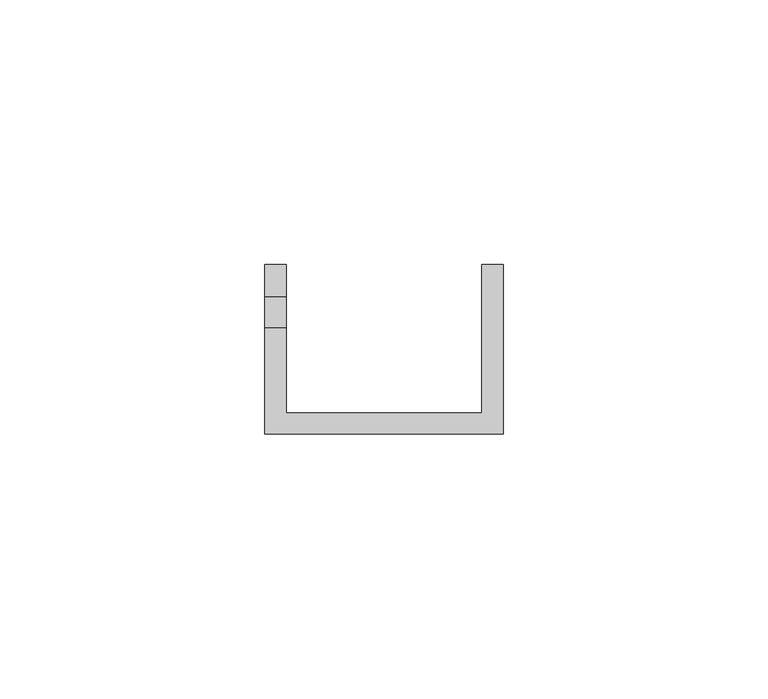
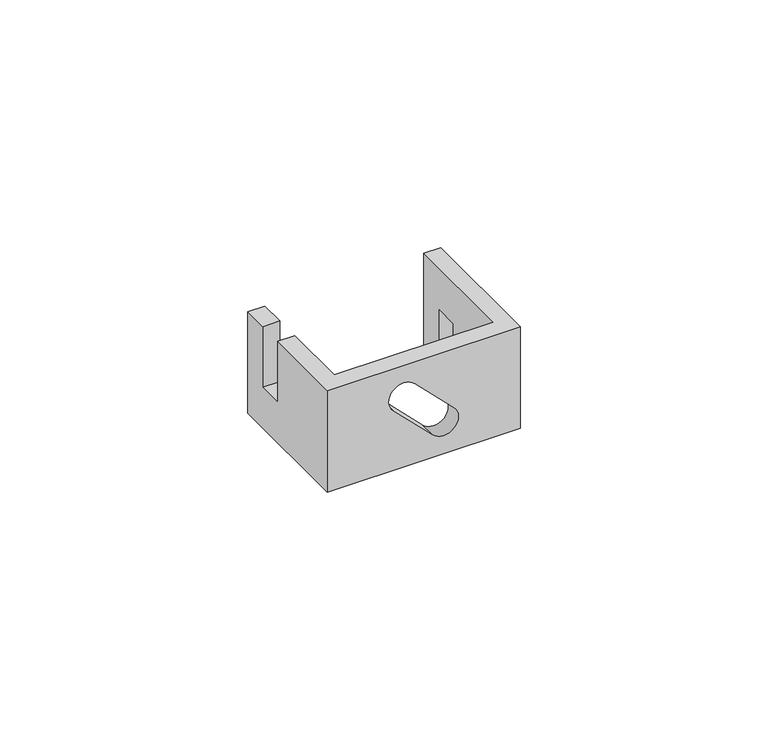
"""IFC4 building model written with IfcOpenShell, lengths in millimetres: proxy geometry, КНС_СкобаДержательПолосы_DKC : ND2311CU_Медь_45 мм."""

from ifc_helpers import new_model, si_unit, frame, origin, place, context, project, spatial, polyline, circle_curve, source, transform, mapped, element, save
from ifc_brep_helpers import plane_surface, revolved_surface, advanced_brep


def security_devices_24ac14d3(model_context):
    return source(origin(), model_context, "Body", "AdvancedBrep", [
        advanced_brep(
        [(-18.5, 32.0, 12.5), (-22.5, 32.0, 12.5), (-22.5, 26.0, 12.5), (-18.5, 26.0, 12.5), (-22.5, 0.0, 12.5), (22.5, 0.0, 12.5), (22.5, 32.0, 12.5), (18.5, 32.0, 12.5), (18.5, 4.0, 12.5), (-18.5, 4.0, 12.5), (-18.5, 20.0, 12.5), (-22.5, 20.0, 12.5), (-18.5, 32.0, -12.5), (-18.5, 4.0, -12.5), (18.5, 4.0, -12.5), (18.5, 20.0, -12.5), (22.5, 20.0, -12.5), (22.5, 0.0, -12.5), (-22.5, 0.0, -12.5), (-22.5, 32.0, -12.5), (18.5, 32.0, -12.5), (22.5, 32.0, -12.5), (22.5, 26.0, -12.5), (18.5, 26.0, -12.5), (-22.5, 20.0, -2.5), (-22.5, 26.0, -2.5), (-7.0710678, 0.0, 2.1213203), (-2.1213203, 0.0, 7.0710678), (7.0710678, 0.0, -2.1213203), (2.1213203, 0.0, -7.0710678), (22.5, 20.0, 2.5), (22.5, 26.0, 2.5), (18.5, 26.0, 2.5), (18.5, 20.0, 2.5), (-2.1213203, 4.0, 7.0710678), (-7.0710678, 4.0, 2.1213203), (2.1213203, 4.0, -7.0710678), (7.0710678, 4.0, -2.1213203), (-18.5, 26.0, -2.5), (-18.5, 20.0, -2.5)],
        [
            (0, 1),
            (1, 2),
            (2, 3),
            (3, 0),
            (4, 5),
            (5, 6),
            (6, 7),
            (7, 8),
            (8, 9),
            (9, 10),
            (10, 11),
            (11, 4),
            (12, 13),
            (13, 14),
            (14, 15),
            (15, 16),
            (16, 17),
            (17, 18),
            (18, 19),
            (19, 12),
            (20, 21),
            (21, 22),
            (22, 23),
            (23, 20),
            (0, 12),
            (19, 1),
            (18, 4),
            (11, 24),
            (24, 25),
            (25, 2),
            (17, 5),
            (26, 27, circle_curve(frame((-4.5961941, 0.0, 4.5961941), z_axis=(0.0, 1.0, 0.0), x_axis=(-1.0, 0.0, 0.0)), 3.5)),
            (27, 28),
            (28, 29, circle_curve(frame((4.5961941, 0.0, -4.5961941), z_axis=(0.0, 1.0, 0.0), x_axis=(-1.0, 0.0, 0.0)), 3.5)),
            (29, 26),
            (16, 30),
            (30, 31),
            (31, 22),
            (21, 6),
            (20, 7),
            (23, 32),
            (32, 33),
            (33, 15),
            (14, 8),
            (13, 9),
            (34, 35, circle_curve(frame((-4.5961941, 4.0, 4.5961941), z_axis=(0.0, -1.0, 0.0), x_axis=(-1.0, 0.0, 0.0)), 3.5)),
            (35, 36),
            (36, 37, circle_curve(frame((4.5961941, 4.0, -4.5961941), z_axis=(0.0, -1.0, 0.0), x_axis=(-1.0, 0.0, 0.0)), 3.5)),
            (37, 34),
            (3, 38),
            (38, 39),
            (39, 10),
            (38, 25),
            (24, 39),
            (30, 33),
            (32, 31),
            (34, 27),
            (26, 35),
            (37, 28),
            (36, 29),
        ],
        [
            plane_surface(frame((-22.5, 32.0, 12.5), z_axis=(0.0, 0.0, 1.0), x_axis=(-1.0, 0.0, 0.0))),
            plane_surface(frame((-22.5, 32.0, -12.5), z_axis=(0.0, 0.0, -1.0), x_axis=(1.0, 0.0, 0.0))),
            plane_surface(frame((-18.5, 32.0, 12.5), z_axis=(0.0, 1.0, 0.0), x_axis=(0.0, 0.0, -1.0))),
            plane_surface(frame((-22.5, 32.0, 12.5), z_axis=(-1.0, 0.0, 0.0), x_axis=(0.0, 0.0, -1.0))),
            plane_surface(frame((-22.5, 0.0, 12.5), z_axis=(0.0, -1.0, 0.0), x_axis=(0.0, 0.0, -1.0))),
            plane_surface(frame((22.5, 0.0, 12.5), z_axis=(1.0, 0.0, 0.0), x_axis=(0.0, 0.0, -1.0))),
            plane_surface(frame((22.5, 32.0, 12.5), z_axis=(0.0, 1.0, 0.0), x_axis=(0.0, 0.0, -1.0))),
            plane_surface(frame((18.5, 32.0, 12.5), z_axis=(-1.0, 0.0, 0.0), x_axis=(0.0, 0.0, -1.0))),
            plane_surface(frame((18.5, 4.0, 12.5), z_axis=(0.0, 1.0, 0.0), x_axis=(0.0, 0.0, -1.0))),
            plane_surface(frame((-18.5, 4.0, 12.5), z_axis=(1.0, 0.0, 0.0), x_axis=(0.0, 0.0, -1.0))),
            plane_surface(frame((-18.5, 20.0, -2.5), z_axis=(0.0, 0.0, 1.0), x_axis=(-1.0, 0.0, 0.0))),
            plane_surface(frame((-18.5, 26.0, -2.5), z_axis=(0.0, -1.0, 0.0), x_axis=(-1.0, 0.0, 0.0))),
            plane_surface(frame((-18.5, 20.0, 12.5), z_axis=(0.0, 1.0, 0.0), x_axis=(-1.0, 0.0, 0.0))),
            plane_surface(frame((22.5, 26.0, 2.5), z_axis=(0.0, 0.0, -1.0), x_axis=(-1.0, 0.0, 0.0))),
            plane_surface(frame((22.5, 20.0, 2.5), z_axis=(0.0, 1.0, 0.0), x_axis=(-1.0, 0.0, 0.0))),
            plane_surface(frame((22.5, 26.0, -12.5), z_axis=(0.0, -1.0, 0.0), x_axis=(-1.0, 0.0, 0.0))),
            revolved_surface(polyline([(-8.0961941, 4.0, 4.5961941), (-8.0961941, 0.0, 4.5961941)]), (-4.5961941, 0.0, 4.5961941), (0.0, 1.0, 0.0)),
            plane_surface(frame((-2.1213203, 4.0, 7.0710678), z_axis=(-0.7071067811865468, 0.0, -0.7071067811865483), x_axis=(0.0, -1.0, 0.0))),
            revolved_surface(polyline([(1.0961941, 4.0, -4.5961941), (1.0961941, 0.0, -4.5961941)]), (4.5961941, 0.0, -4.5961941), (0.0, 1.0, 0.0)),
            plane_surface(frame((2.1213203, 4.0, -7.0710678), z_axis=(0.7071067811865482, 0.0, 0.7071067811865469), x_axis=(0.0, -1.0, 0.0))),
        ],
        [
            (0, [[1, 2, 3, 4]]),
            (0, [[5, 6, 7, 8, 9, 10, 11, 12]]),
            (1, [[13, 14, 15, 16, 17, 18, 19, 20]]),
            (1, [[21, 22, 23, 24]]),
            (2, [[-1, 25, -20, 26]]),
            (3, [[-19, 27, -12, 28, 29, 30, -2, -26]]),
            (4, [[-5, -27, -18, 31], [32, 33, 34, 35]]),
            (5, [[-6, -31, -17, 36, 37, 38, -22, 39]]),
            (6, [[-7, -39, -21, 40]]),
            (7, [[-8, -40, -24, 41, 42, 43, -15, 44]]),
            (8, [[-9, -44, -14, 45], [46, 47, 48, 49]]),
            (9, [[-13, -25, -4, 50, 51, 52, -10, -45]]),
            (10, [[53, -29, 54, -51]]),
            (11, [[-53, -50, -3, -30]]),
            (12, [[-54, -28, -11, -52]]),
            (13, [[55, -42, 56, -37]]),
            (14, [[-55, -36, -16, -43]]),
            (15, [[-56, -41, -23, -38]]),
            (16, [[57, -32, 58, -46]]),
            (17, [[-57, -49, 59, -33]]),
            (18, [[-59, -48, 60, -34]]),
            (19, [[-58, -35, -60, -47]]),
        ],
    ),
    ])


if __name__ == "__main__":
    model = new_model("IFC4")
    model_context = context("Model", 3, world=origin())
    ifc_project = project(units=[si_unit("LENGTHUNIT", "METRE", prefix="MILLI")], contexts=[model_context])
    site = spatial("IfcSite", under=ifc_project)
    building = spatial("IfcBuilding", under=site)
    placement = place(None, origin())
    security_devices_shape = security_devices_24ac14d3(model_context)
    element("IfcBuildingElementProxy", 1, Name="КНС_СкобаДержательПолосы_DKC : ND2311CU_Медь_45 мм", ObjectType="КНС_СкобаДержательПолосы_DKC : ND2311CU_Медь_45 мм", at=placement, inside=building, context=model_context, shape_type="MappedRepresentation", body=[
        mapped(security_devices_shape, transform((0.0, 0.0, 0.0), x_axis=(1.0, 0.0, 0.0), y_axis=(0.0, 1.0, 0.0), z_axis=(0.0, 0.0, 1.0))),
    ])
    save(model, "model.ifc")
